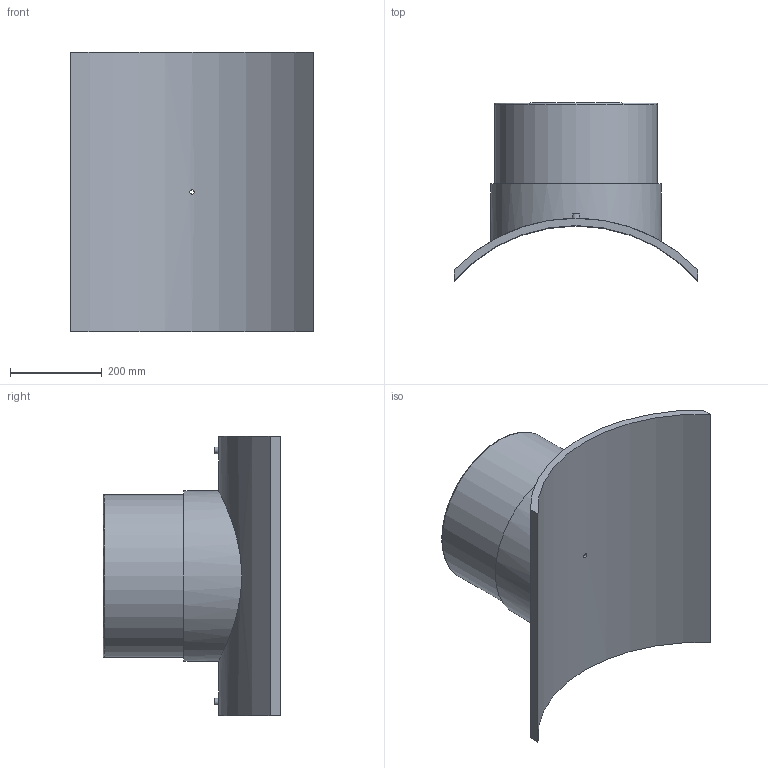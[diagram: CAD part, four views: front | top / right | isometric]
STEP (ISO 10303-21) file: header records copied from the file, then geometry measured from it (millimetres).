
FILE_DESCRIPTION(/* description */ ('PLASSON BRANCH SADDLE 710x355'),/* implementation_level */ '2;1');
FILE_NAME(/* name */ 'C:\Dropbox\KIMPROJECTS-Inventor 2019\99-16-3568-Processing\ElectroFusion Fittings\495803\stp\495803710355T.stp',/* time_stamp */ '2024-04-04T11:56:44+02:00',/* author */ ('KIM'),/* organization */ (''),/* preprocessor_version */ 'ST-DEVELOPER v17.2',/* originating_system */ 'Autodesk Inventor 2019',/* authorisation */ '');
FILE_SCHEMA (('AUTOMOTIVE_DESIGN { 1 0 10303 214 3 1 1 }'));
Length unit declared in the file: millimetre
Products named in the file (1): 495803710355T
Bounding box: 532 x 387.91 x 610 mm (x, y, z)
Volume: 16467942.4 mm3; surface area: 1334750.7 mm2
Topology: 1 solids, 1 shells, 29 faces, 60 edges, 43 vertices
Faces by surface type: plane 13, cylinder 12, torus 2, cone 2
Full cylindrical faces by diameter (mm): 4 x2, 9.6 x1, 10 x2, 16 x1, 284 x1, 355 x1, 372.75 x1
Entity records: 1102 total; most frequent: CARTESIAN_POINT 416, DIRECTION 139, ORIENTED_EDGE 120, EDGE_CURVE 60, AXIS2_PLACEMENT_3D 60, VERTEX_POINT 43, EDGE_LOOP 41, CIRCLE 30
